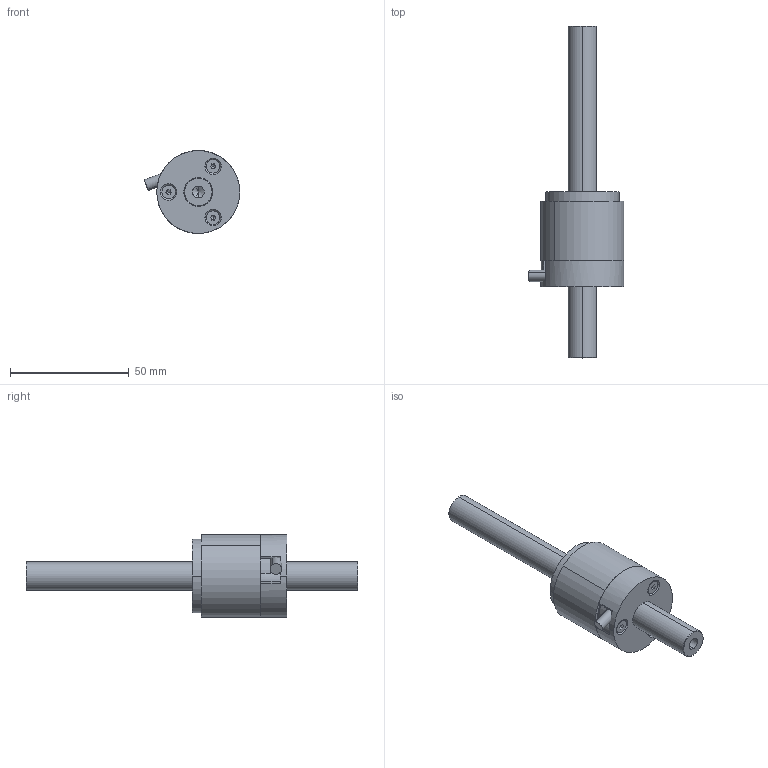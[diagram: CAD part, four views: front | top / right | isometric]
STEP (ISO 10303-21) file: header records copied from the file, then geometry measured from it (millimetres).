
FILE_DESCRIPTION (( 'STEP AP214' ), '1' );
FILE_NAME ('LinACE_d12_radial.STEP', '2020-06-24T06:08:40', ( '' ), ( '' ), 'SwSTEP 2.0', 'SolidWorks 2016', '' );
FILE_SCHEMA (( 'AUTOMOTIVE_DESIGN' ));
Length unit declared in the file: millimetre
Products named in the file (9): d12_SMW; Pokrov d12_v3; LinACE_d12_radial; Linace_RS422_V0_01; Pokrov; Pu啾 d12 peek; MN01537_02; Cable - radial; socket countersunk head screw_din_DIN 7991 - M3 x 10 --- 6.8N
Assembly tree (10 placements, depth 2):
  LinACE_d12_radial
    MN01537_02
    Pokrov
    Pokrov d12_v3
    Cable - radial
    Pu啾 d12 peek  x2
    d12_SMW
    socket countersunk head screw_din_DIN 7991 - M3 x 10 --- 6.8N  x3
  Linace_RS422_V0_01
Bounding box: 40.31 x 140 x 35 mm (x, y, z)
Volume: 39097.8 mm3; surface area: 26168.9 mm2
Topology: 10 solids, 10 shells, 435 faces, 1027 edges, 629 vertices
Faces by surface type: cylinder 184, plane 141, cone 90, torus 20
Entity records: 11183 total; most frequent: DIRECTION 2005, CARTESIAN_POINT 1901, ORIENTED_EDGE 1686, EDGE_CURVE 843, AXIS2_PLACEMENT_3D 803, VERTEX_POINT 539, CIRCLE 430, EDGE_LOOP 420
